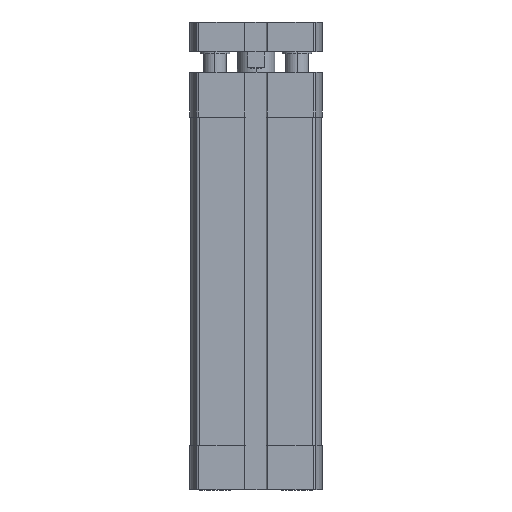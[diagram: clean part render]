
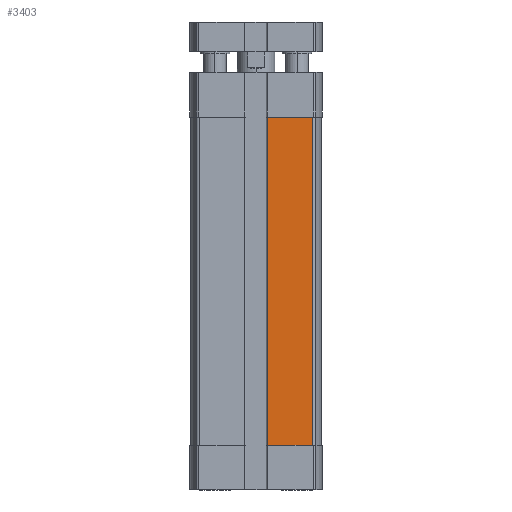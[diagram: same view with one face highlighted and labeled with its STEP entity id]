
A CAD part, front view. The second image highlights one B-rep face of the part: STEP entity #3403.
In plain terms, the highlighted planar face has unit normal (0, -1, 0) as drawn and (-1, 0, 0) by its records, which use the part's own axes.
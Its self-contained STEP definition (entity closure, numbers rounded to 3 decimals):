
#65 = CARTESIAN_POINT ( 'NONE',  ( -17.5, -3.1, -100. ) ) ;
#359 = EDGE_LOOP ( 'NONE', ( #943, #1728, #9877, #5655 ) ) ;
#620 = EDGE_CURVE ( 'NONE', #15051, #4333, #10089, .T. ) ;
#858 = DIRECTION ( 'NONE',  ( 0., 0., 1. ) ) ;
#923 = CARTESIAN_POINT ( 'NONE',  ( -17.5, -15.253, -100. ) ) ;
#943 = ORIENTED_EDGE ( 'NONE', *, *, #5915, .T. ) ;
#979 = VERTEX_POINT ( 'NONE', #18054 ) ;
#1227 = EDGE_CURVE ( 'NONE', #4333, #979, #5490, .T. ) ;
#1236 = AXIS2_PLACEMENT_3D ( 'NONE', #16586, #7677, #18036 ) ;
#1261 = EDGE_CURVE ( 'NONE', #3316, #979, #13114, .T. ) ;
#1728 = ORIENTED_EDGE ( 'NONE', *, *, #620, .T. ) ;
#3070 = FACE_OUTER_BOUND ( 'NONE', #359, .T. ) ;
#3227 = DIRECTION ( 'NONE',  ( 0., -1., 0. ) ) ;
#3316 = VERTEX_POINT ( 'NONE', #65 ) ;
#3403 = ADVANCED_FACE ( 'NONE', ( #3070 ), #6103, .T. ) ;
#4333 = VERTEX_POINT ( 'NONE', #6562 ) ;
#4627 = CARTESIAN_POINT ( 'NONE',  ( -17.5, -3.1, -100. ) ) ;
#5466 = CARTESIAN_POINT ( 'NONE',  ( -17.5, 0., -12. ) ) ;
#5490 = LINE ( 'NONE', #5466, #16989 ) ;
#5655 = ORIENTED_EDGE ( 'NONE', *, *, #1261, .F. ) ;
#5915 = EDGE_CURVE ( 'NONE', #3316, #15051, #7978, .T. ) ;
#6103 = PLANE ( 'NONE',  #1236 ) ;
#6562 = CARTESIAN_POINT ( 'NONE',  ( -17.5, -15.253, -12. ) ) ;
#7677 = DIRECTION ( 'NONE',  ( -1., 0., 0. ) ) ;
#7978 = LINE ( 'NONE', #4627, #15501 ) ;
#8076 = CARTESIAN_POINT ( 'NONE',  ( -17.5, -15.253, -100. ) ) ;
#9626 = VECTOR ( 'NONE', #858, 1000. ) ;
#9877 = ORIENTED_EDGE ( 'NONE', *, *, #1227, .T. ) ;
#10089 = LINE ( 'NONE', #923, #9626 ) ;
#13114 = LINE ( 'NONE', #15406, #13560 ) ;
#13484 = DIRECTION ( 'NONE',  ( 0., 1., 0. ) ) ;
#13560 = VECTOR ( 'NONE', #15225, 1000. ) ;
#15051 = VERTEX_POINT ( 'NONE', #8076 ) ;
#15225 = DIRECTION ( 'NONE',  ( 0., 0., 1. ) ) ;
#15406 = CARTESIAN_POINT ( 'NONE',  ( -17.5, -3.1, -100. ) ) ;
#15501 = VECTOR ( 'NONE', #3227, 1000. ) ;
#16586 = CARTESIAN_POINT ( 'NONE',  ( -17.5, -3.1, -100. ) ) ;
#16989 = VECTOR ( 'NONE', #13484, 1000. ) ;
#18036 = DIRECTION ( 'NONE',  ( 0., 0., 1. ) ) ;
#18054 = CARTESIAN_POINT ( 'NONE',  ( -17.5, -3.1, -12. ) ) ;
